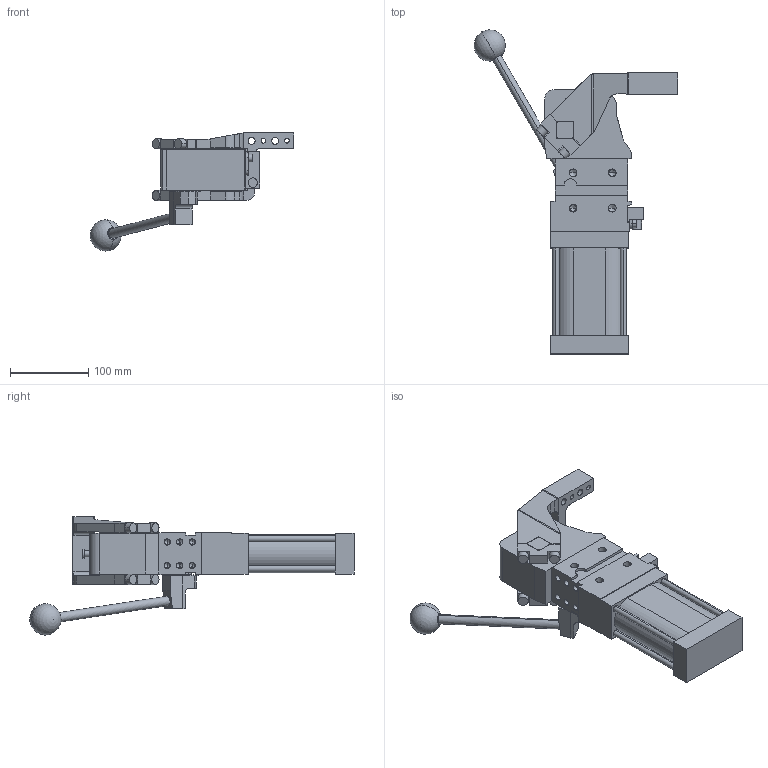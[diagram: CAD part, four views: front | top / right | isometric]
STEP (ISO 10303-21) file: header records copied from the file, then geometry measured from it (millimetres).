
FILE_DESCRIPTION (( 'STEP AP214' ), '1' );
FILE_NAME ('cplm63lbv3ssi1g_26.STEP', '2023-01-26T14:54:23', ( '' ), ( '' ), 'SwSTEP 2.0', 'SolidWorks 2022', '' );
FILE_SCHEMA (( 'AUTOMOTIVE_DESIGN' ));
Length unit declared in the file: millimetre
Products named in the file (5): blocchetto_VEP_0; comando_manuale_cplm_63; cplm63lbv3ssi1g_26; leva_dx_offset_45_cpl63; meccanica_cplm_63
Assembly tree (4 placements, depth 2):
  cplm63lbv3ssi1g_26
    meccanica_cplm_63
    blocchetto_VEP_0
    leva_dx_offset_45_cpl63
    comando_manuale_cplm_63
Bounding box: 260.54 x 414.46 x 151 mm (x, y, z)
Volume: 1887764.5 mm3; surface area: 211438.7 mm2
Topology: 4 solids, 4 shells, 432 faces, 1134 edges, 703 vertices
Faces by surface type: plane 219, cylinder 161, cone 50, sphere 2
Entity records: 14577 total; most frequent: CARTESIAN_POINT 2322, DIRECTION 2302, ORIENTED_EDGE 2166, EDGE_CURVE 1083, AXIS2_PLACEMENT_3D 794, VECTOR 714, LINE 714, VERTEX_POINT 700
